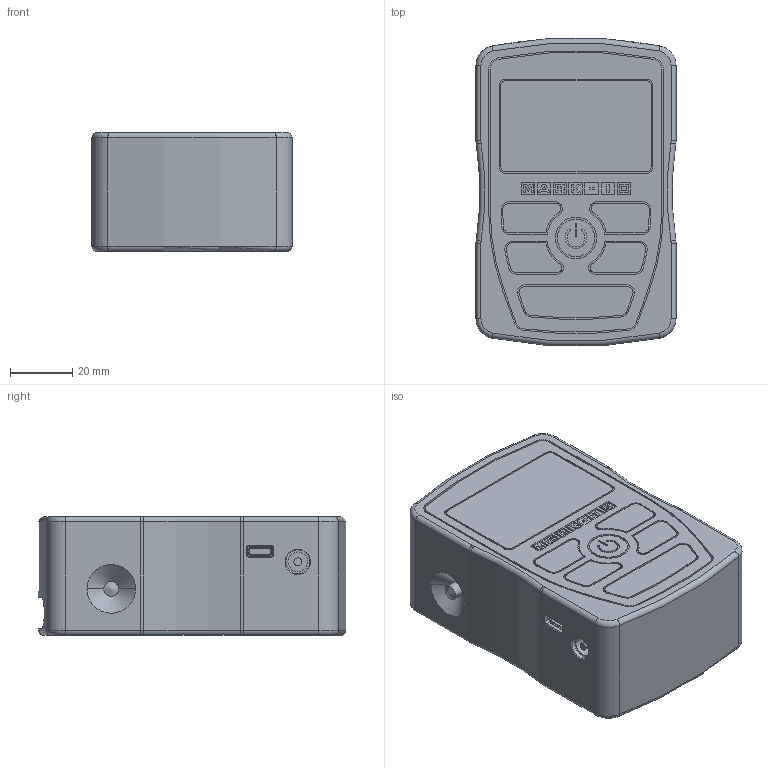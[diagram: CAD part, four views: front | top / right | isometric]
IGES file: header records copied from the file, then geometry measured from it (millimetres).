
Global section: file name: No Iges File Name specified; native system: Autodesk Inventor 2010; preprocessor: AutoDesk Inventor Iges Exporter R2010; author: mlampen; date: 20170405.120305; units: inch
Bounding box: 64.26 x 98.63 x 38.1 mm (x, y, z)
Volume: 217860.2 mm3; surface area: 29630.9 mm2
Topology: 1 solids, 1 shells, 501 faces, 1260 edges, 816 vertices
Faces by surface type: plane 259, revolution 110, cylinder 75, bspline 33, torus 24
